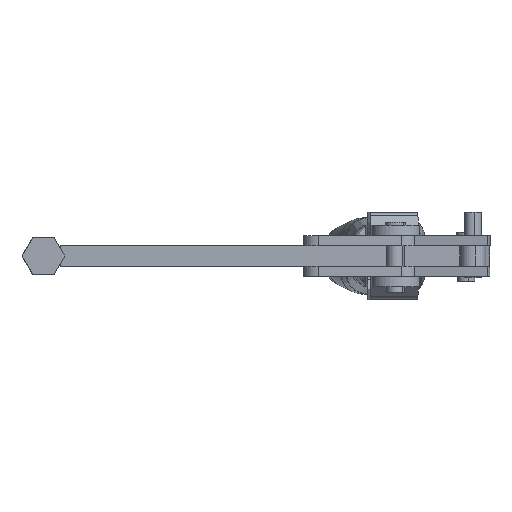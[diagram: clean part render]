
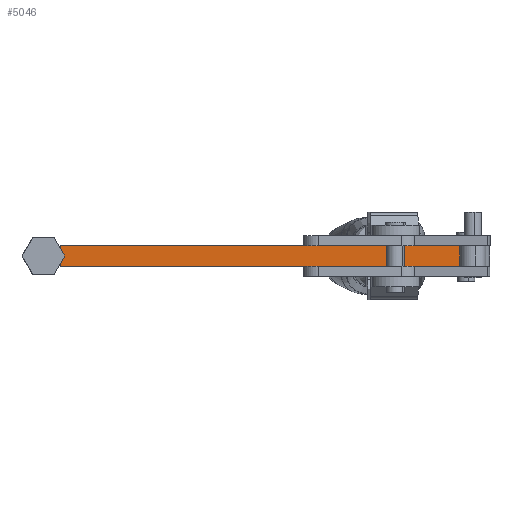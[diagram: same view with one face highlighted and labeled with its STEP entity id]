
A CAD part, front view. The second image highlights one B-rep face of the part: STEP entity #5046.
In plain terms, the highlighted planar face has unit normal (0.003, -1, 0) as drawn and (0, 0, 1) by its records, which use the part's own axes.
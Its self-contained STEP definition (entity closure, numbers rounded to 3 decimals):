
#235 = DIRECTION ( 'NONE',  ( 1., 0., 0. ) ) ;
#464 = ORIENTED_EDGE ( 'NONE', *, *, #1953, .T. ) ;
#659 = CARTESIAN_POINT ( 'NONE',  ( 0., 0., 11. ) ) ;
#1382 = CARTESIAN_POINT ( 'NONE',  ( 0., 0., 11. ) ) ;
#1953 = EDGE_CURVE ( 'NONE', #10178, #4750, #2545, .T. ) ;
#2512 = LINE ( 'NONE', #4529, #12423 ) ;
#2545 = LINE ( 'NONE', #7265, #11295 ) ;
#3563 = EDGE_CURVE ( 'NONE', #4750, #15595, #17039, .T. ) ;
#4208 = DIRECTION ( 'NONE',  ( -1., 0., 0. ) ) ;
#4529 = CARTESIAN_POINT ( 'NONE',  ( 0., 9.525, 11. ) ) ;
#4750 = VERTEX_POINT ( 'NONE', #16173 ) ;
#5036 = EDGE_LOOP ( 'NONE', ( #22305, #9709, #20280, #464 ) ) ;
#5046 = ADVANCED_FACE ( 'NONE', ( #10542 ), #15099, .F. ) ;
#6604 = VECTOR ( 'NONE', #235, 1000. ) ;
#6701 = CARTESIAN_POINT ( 'NONE',  ( -192., 9.525, 11. ) ) ;
#7126 = DIRECTION ( 'NONE',  ( 0., -1., 0. ) ) ;
#7265 = CARTESIAN_POINT ( 'NONE',  ( -192., 9.525, 11. ) ) ;
#9709 = ORIENTED_EDGE ( 'NONE', *, *, #18582, .F. ) ;
#10178 = VERTEX_POINT ( 'NONE', #6701 ) ;
#10529 = VERTEX_POINT ( 'NONE', #22585 ) ;
#10542 = FACE_OUTER_BOUND ( 'NONE', #5036, .T. ) ;
#11295 = VECTOR ( 'NONE', #7126, 1000. ) ;
#12423 = VECTOR ( 'NONE', #17507, 1000. ) ;
#13643 = LINE ( 'NONE', #22561, #22831 ) ;
#15099 = PLANE ( 'NONE',  #18143 ) ;
#15346 = DIRECTION ( 'NONE',  ( 0., 0., -1. ) ) ;
#15595 = VERTEX_POINT ( 'NONE', #659 ) ;
#16173 = CARTESIAN_POINT ( 'NONE',  ( -192., 0., 11. ) ) ;
#16434 = EDGE_CURVE ( 'NONE', #10178, #10529, #13643, .T. ) ;
#17039 = LINE ( 'NONE', #1382, #6604 ) ;
#17106 = DIRECTION ( 'NONE',  ( 1., 0., 0. ) ) ;
#17507 = DIRECTION ( 'NONE',  ( 0., -1., 0. ) ) ;
#18143 = AXIS2_PLACEMENT_3D ( 'NONE', #20711, #15346, #4208 ) ;
#18582 = EDGE_CURVE ( 'NONE', #10529, #15595, #2512, .T. ) ;
#20280 = ORIENTED_EDGE ( 'NONE', *, *, #16434, .F. ) ;
#20711 = CARTESIAN_POINT ( 'NONE',  ( 0., 9.525, 11. ) ) ;
#22305 = ORIENTED_EDGE ( 'NONE', *, *, #3563, .T. ) ;
#22561 = CARTESIAN_POINT ( 'NONE',  ( 0., 9.525, 11. ) ) ;
#22585 = CARTESIAN_POINT ( 'NONE',  ( 0., 9.525, 11. ) ) ;
#22831 = VECTOR ( 'NONE', #17106, 1000. ) ;
